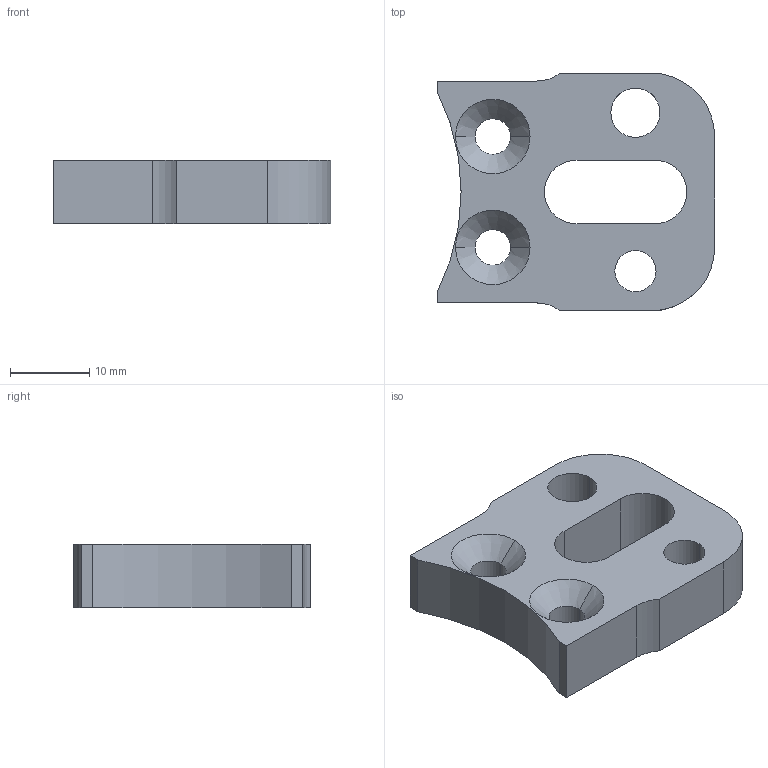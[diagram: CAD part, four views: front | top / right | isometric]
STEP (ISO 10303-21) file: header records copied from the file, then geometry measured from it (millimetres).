
FILE_DESCRIPTION (( 'STEP AP214' ), '1' );
FILE_NAME ('Befestigungsarm HW730.STEP', '2017-11-13T07:11:55', ( '' ), ( '' ), 'SwSTEP 2.0', 'SolidWorks 2015', '' );
FILE_SCHEMA (( 'AUTOMOTIVE_DESIGN' ));
Length unit declared in the file: millimetre
Products named in the file (1): Befestigungsarm HW730
Bounding box: 35 x 30 x 8 mm (x, y, z)
Volume: 5600.2 mm3; surface area: 3261.8 mm2
Topology: 1 solids, 1 shells, 35 faces, 91 edges, 58 vertices
Faces by surface type: cylinder 16, plane 11, cone 8
Entity records: 1135 total; most frequent: DIRECTION 203, CARTESIAN_POINT 185, ORIENTED_EDGE 182, EDGE_CURVE 91, AXIS2_PLACEMENT_3D 76, VERTEX_POINT 58, VECTOR 51, LINE 51
